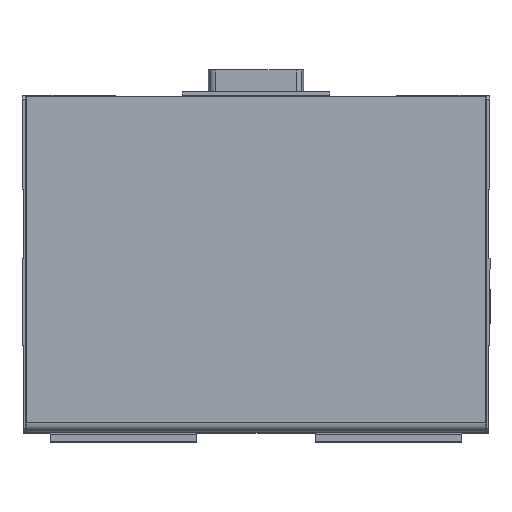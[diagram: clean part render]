
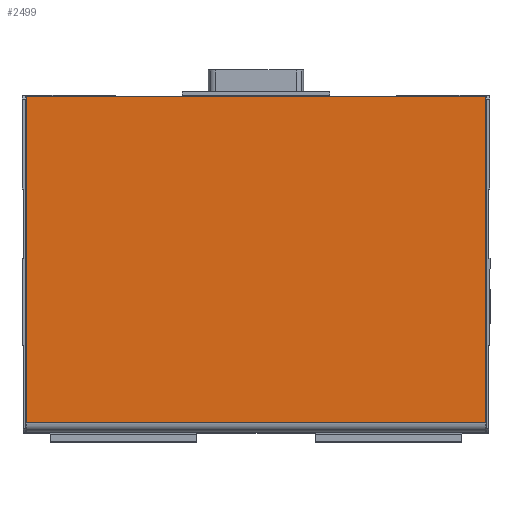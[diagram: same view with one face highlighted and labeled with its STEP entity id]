
A CAD part, top view. The second image highlights one B-rep face of the part: STEP entity #2499.
In plain terms, the highlighted planar face has unit normal (0, 0, 1).
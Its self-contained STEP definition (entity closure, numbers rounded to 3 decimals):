
#2180=CARTESIAN_POINT('',(65.28,-47.405,30.8));
#2181=VERTEX_POINT('',#2180);
#2189=CARTESIAN_POINT('',(-57.32,-47.405,30.8));
#2190=VERTEX_POINT('',#2189);
#2191=CARTESIAN_POINT('',(65.28,-47.405,30.8));
#2192=DIRECTION('',(-1.0,0.0,0.0));
#2193=VECTOR('',#2192,122.6);
#2194=LINE('',#2191,#2193);
#2195=EDGE_CURVE('',#2181,#2190,#2194,.T.);
#2270=CARTESIAN_POINT('',(65.28,39.695,30.8));
#2271=VERTEX_POINT('',#2270);
#2278=CARTESIAN_POINT('',(65.28,39.695,30.8));
#2279=DIRECTION('',(0.0,-1.0,0.0));
#2280=VECTOR('',#2279,87.1);
#2281=LINE('',#2278,#2280);
#2282=EDGE_CURVE('',#2271,#2181,#2281,.T.);
#2476=CARTESIAN_POINT('',(4.18,-5.355,30.8));
#2477=DIRECTION('',(0.0,0.0,1.0));
#2478=DIRECTION('',(1.0,0.0,0.0));
#2479=AXIS2_PLACEMENT_3D('',#2476,#2477,#2478);
#2480=PLANE('',#2479);
#2481=ORIENTED_EDGE('',*,*,#2195,.F.);
#2482=ORIENTED_EDGE('',*,*,#2282,.F.);
#2483=CARTESIAN_POINT('',(-57.32,39.695,30.8));
#2484=VERTEX_POINT('',#2483);
#2485=CARTESIAN_POINT('',(-57.32,39.695,30.8));
#2486=DIRECTION('',(1.0,0.0,0.0));
#2487=VECTOR('',#2486,122.6);
#2488=LINE('',#2485,#2487);
#2489=EDGE_CURVE('',#2484,#2271,#2488,.T.);
#2490=ORIENTED_EDGE('',*,*,#2489,.F.);
#2491=CARTESIAN_POINT('',(-57.32,-47.405,30.8));
#2492=DIRECTION('',(0.0,1.0,0.0));
#2493=VECTOR('',#2492,87.1);
#2494=LINE('',#2491,#2493);
#2495=EDGE_CURVE('',#2190,#2484,#2494,.T.);
#2496=ORIENTED_EDGE('',*,*,#2495,.F.);
#2497=EDGE_LOOP('',(#2481,#2482,#2490,#2496));
#2498=FACE_OUTER_BOUND('',#2497,.T.);
#2499=ADVANCED_FACE('',(#2498),#2480,.T.);
